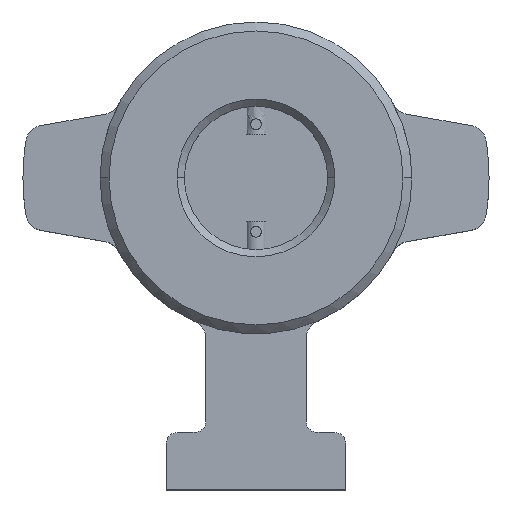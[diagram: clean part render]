
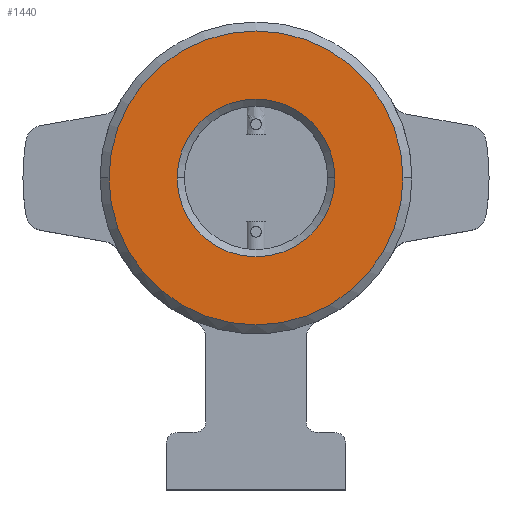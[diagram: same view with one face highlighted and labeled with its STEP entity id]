
A CAD part, top view. The second image highlights one B-rep face of the part: STEP entity #1440.
In plain terms, the highlighted free-form (B-spline) face has degree [1, 1] with [2, 2] control points.
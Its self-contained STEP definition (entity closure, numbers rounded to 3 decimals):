
#775=CARTESIAN_POINT('',(-41.0,0.,30.0));
#776=VERTEX_POINT('',#775);
#785=CARTESIAN_POINT('',(41.0,0.0,30.0));
#786=VERTEX_POINT('',#785);
#787=CARTESIAN_POINT('',(0.0,0.0,30.0));
#788=DIRECTION('',(0.0,0.0,1.0));
#789=DIRECTION('',(-1.0,0.0,0.0));
#790=AXIS2_PLACEMENT_3D('',#787,#788,#789);
#791=CIRCLE('',#790,41.0);
#792=EDGE_CURVE('',#786,#776,#791,.T.);
#1352=CARTESIAN_POINT('',(-22.0,0.,30.0));
#1353=VERTEX_POINT('',#1352);
#1367=CARTESIAN_POINT('',(22.0,0.0,30.0));
#1368=VERTEX_POINT('',#1367);
#1375=CARTESIAN_POINT('',(0.0,0.0,30.0));
#1376=DIRECTION('',(0.0,0.0,1.0));
#1377=DIRECTION('',(-1.0,0.0,0.0));
#1378=AXIS2_PLACEMENT_3D('',#1375,#1376,#1377);
#1379=CIRCLE('',#1378,22.0);
#1380=EDGE_CURVE('',#1368,#1353,#1379,.T.);
#1391=CARTESIAN_POINT('',(0.0,0.0,30.0));
#1392=DIRECTION('',(0.0,0.0,1.0));
#1393=DIRECTION('',(-1.0,0.0,0.0));
#1394=AXIS2_PLACEMENT_3D('',#1391,#1392,#1393);
#1395=CIRCLE('',#1394,22.0);
#1396=EDGE_CURVE('',#1353,#1368,#1395,.T.);
#1421=CARTESIAN_POINT('',(-41.0,-41.0,30.));
#1422=CARTESIAN_POINT('',(41.0,-41.0,30.));
#1423=CARTESIAN_POINT('',(-41.0,41.0,30.));
#1424=CARTESIAN_POINT('',(41.0,41.0,30.));
#1425=B_SPLINE_SURFACE_WITH_KNOTS('',1,1,((#1421,#1423),(#1422,#1424)),.UNSPECIFIED.,.F.,.F.,.U.,(2,2),(2,2),(0.0,82.0),(0.0,82.0),.UNSPECIFIED.);
#1426=ORIENTED_EDGE('',*,*,#792,.T.);
#1427=CARTESIAN_POINT('',(0.0,0.0,30.0));
#1428=DIRECTION('',(0.0,0.0,1.0));
#1429=DIRECTION('',(-1.0,0.0,0.0));
#1430=AXIS2_PLACEMENT_3D('',#1427,#1428,#1429);
#1431=CIRCLE('',#1430,41.0);
#1432=EDGE_CURVE('',#776,#786,#1431,.T.);
#1433=ORIENTED_EDGE('',*,*,#1432,.T.);
#1434=EDGE_LOOP('',(#1426,#1433));
#1435=FACE_OUTER_BOUND('',#1434,.T.);
#1436=ORIENTED_EDGE('',*,*,#1380,.F.);
#1437=ORIENTED_EDGE('',*,*,#1396,.F.);
#1438=EDGE_LOOP('',(#1436,#1437));
#1439=FACE_BOUND('',#1438,.T.);
#1440=ADVANCED_FACE('',(#1435,#1439),#1425,.T.);
